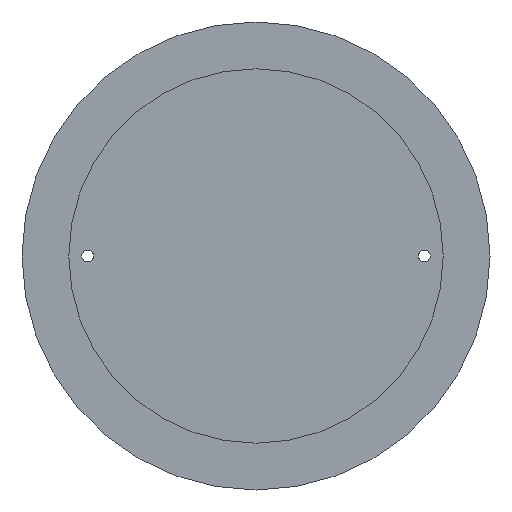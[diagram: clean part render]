
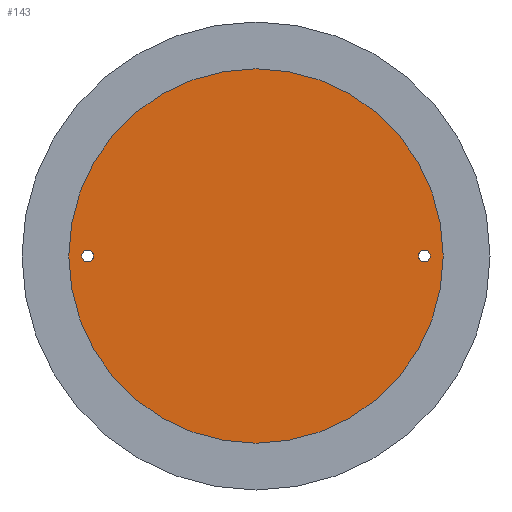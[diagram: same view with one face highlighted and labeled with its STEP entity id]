
A CAD part, front view. The second image highlights one B-rep face of the part: STEP entity #143.
In plain terms, the highlighted planar face has unit normal (0, -1, 0).
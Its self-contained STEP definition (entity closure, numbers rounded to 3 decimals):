
#35=ORIENTED_EDGE('',*,*,#56,.F.);
#36=ORIENTED_EDGE('',*,*,#57,.F.);
#37=ORIENTED_EDGE('',*,*,#55,.T.);
#55=EDGE_CURVE('',#67,#67,#79,.T.);
#56=EDGE_CURVE('',#68,#68,#80,.T.);
#57=EDGE_CURVE('',#69,#69,#81,.T.);
#67=VERTEX_POINT('',#250);
#68=VERTEX_POINT('',#253);
#69=VERTEX_POINT('',#255);
#79=CIRCLE('',#172,80.);
#80=CIRCLE('',#174,2.5);
#81=CIRCLE('',#175,2.5);
#95=EDGE_LOOP('',(#35));
#96=EDGE_LOOP('',(#36));
#97=EDGE_LOOP('',(#37));
#119=FACE_BOUND('',#95,.T.);
#120=FACE_BOUND('',#96,.T.);
#121=FACE_BOUND('',#97,.T.);
#136=PLANE('',#173);
#143=ADVANCED_FACE('',(#119,#120,#121),#136,.F.);
#172=AXIS2_PLACEMENT_3D('',#249,#206,#207);
#173=AXIS2_PLACEMENT_3D('',#251,#208,#209);
#174=AXIS2_PLACEMENT_3D('',#252,#210,#211);
#175=AXIS2_PLACEMENT_3D('',#254,#212,#213);
#206=DIRECTION('',(0.,-1.,0.));
#207=DIRECTION('',(0.,0.,-1.));
#208=DIRECTION('',(0.,1.,0.));
#209=DIRECTION('',(0.,0.,1.));
#210=DIRECTION('',(0.,-1.,0.));
#211=DIRECTION('',(0.,0.,-1.));
#212=DIRECTION('',(0.,-1.,0.));
#213=DIRECTION('',(0.,0.,-1.));
#249=CARTESIAN_POINT('',(0.,0.,0.));
#250=CARTESIAN_POINT('',(0.,0.,-80.));
#251=CARTESIAN_POINT('',(0.,0.,-80.));
#252=CARTESIAN_POINT('',(-72.,0.,0.));
#253=CARTESIAN_POINT('',(-72.,0.,-2.5));
#254=CARTESIAN_POINT('',(72.,0.,0.));
#255=CARTESIAN_POINT('',(72.,0.,-2.5));
